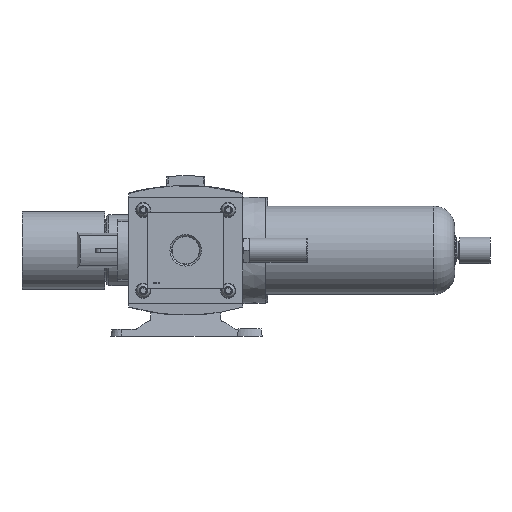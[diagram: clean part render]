
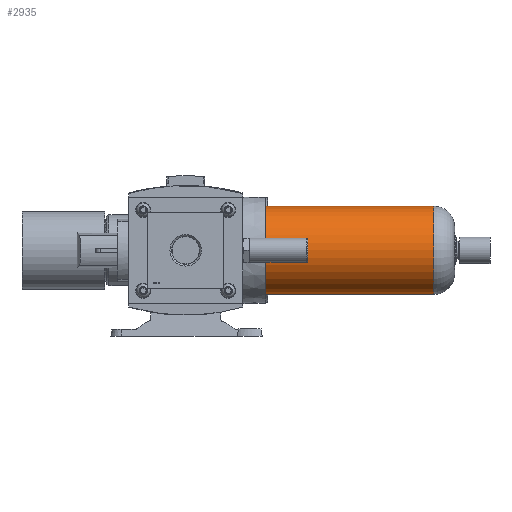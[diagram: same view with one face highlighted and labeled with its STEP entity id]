
A CAD part, left-side view. The second image highlights one B-rep face of the part: STEP entity #2935.
In plain terms, the highlighted cylindrical face has radius 31.75 mm (diameter 63.5 mm), a full revolution.
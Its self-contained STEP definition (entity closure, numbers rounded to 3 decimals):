
#2935 = ADVANCED_FACE( '', ( #6298, #6299 ), #6300, .T. );
#6298 = FACE_OUTER_BOUND( '', #10303, .T. );
#6299 = FACE_OUTER_BOUND( '', #10304, .T. );
#6300 = CYLINDRICAL_SURFACE( '', #10305, 31.75 );
#10303 = EDGE_LOOP( '', ( #17538 ) );
#10304 = EDGE_LOOP( '', ( #17539 ) );
#10305 = AXIS2_PLACEMENT_3D( '', #17540, #17541, #17542 );
#17538 = ORIENTED_EDGE( '', *, *, #23320, .F. );
#17539 = ORIENTED_EDGE( '', *, *, #24122, .T. );
#17540 = CARTESIAN_POINT( '', ( 0., -136.7, 0. ) );
#17541 = DIRECTION( '', ( 0., 1., 0. ) );
#17542 = DIRECTION( '', ( 0., 0., -1. ) );
#23320 = EDGE_CURVE( '', #27838, #27838, #27839, .T. );
#24122 = EDGE_CURVE( '', #29155, #29155, #29156, .T. );
#27838 = VERTEX_POINT( '', #34220 );
#27839 = CIRCLE( '', #34221, 31.75 );
#29155 = VERTEX_POINT( '', #36240 );
#29156 = CIRCLE( '', #36241, 31.75 );
#34220 = CARTESIAN_POINT( '', ( 0., -121.1, -31.75 ) );
#34221 = AXIS2_PLACEMENT_3D( '', #42079, #42080, #42081 );
#36240 = CARTESIAN_POINT( '', ( 0., 0., -31.75 ) );
#36241 = AXIS2_PLACEMENT_3D( '', #43022, #43023, #43024 );
#42079 = CARTESIAN_POINT( '', ( 0., -121.1, 0. ) );
#42080 = DIRECTION( '', ( 0., -1., 0. ) );
#42081 = DIRECTION( '', ( 0., 0., -1. ) );
#43022 = CARTESIAN_POINT( '', ( 0., 0., 0. ) );
#43023 = DIRECTION( '', ( 0., -1., 0. ) );
#43024 = DIRECTION( '', ( 0., 0., -1. ) );
